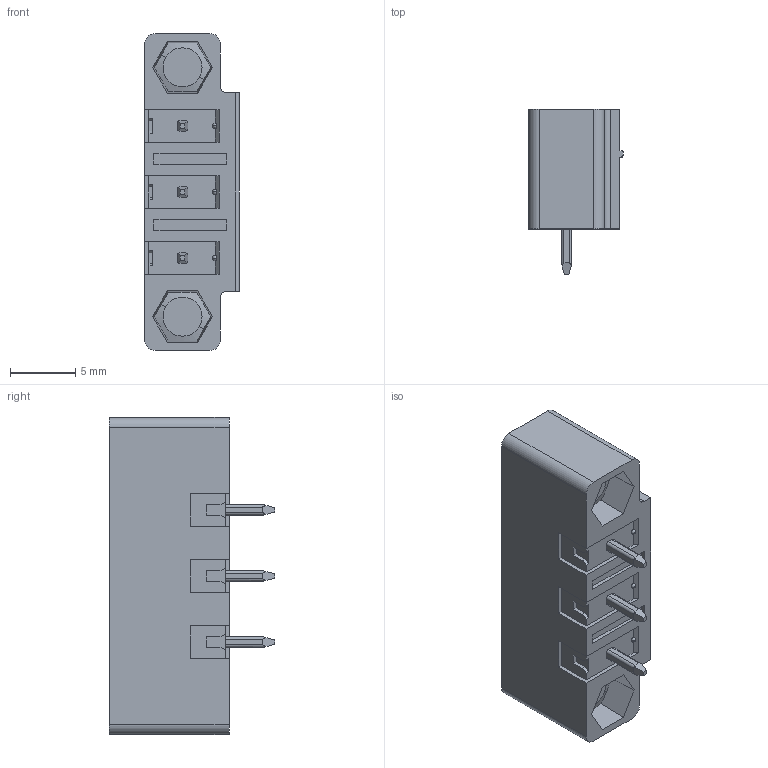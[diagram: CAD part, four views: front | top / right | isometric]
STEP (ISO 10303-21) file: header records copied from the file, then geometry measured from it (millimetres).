
FILE_DESCRIPTION((''),'2;1');
FILE_NAME('3PIN_SW0001','2019-05-14T',('zhenbing.lai'),(''),'CREO PARAMETRIC BY PTC INC, 2016260','CREO PARAMETRIC BY PTC INC, 2016260','');
FILE_SCHEMA(('CONFIG_CONTROL_DESIGN'));
Length unit declared in the file: millimetre
Products named in the file (1): 3PIN_SW0001
Bounding box: 7.25 x 12.7 x 24.36 mm (x, y, z)
Volume: 1025.8 mm3; surface area: 1681.3 mm2
Topology: 1 solids, 3 shells, 358 faces, 959 edges, 614 vertices
Faces by surface type: plane 244, cylinder 77, cone 19, bspline 12, sphere 6
Entity records: 18761 total; most frequent: CARTESIAN_POINT 10145, ORIENTED_EDGE 1898, DIRECTION 1567, EDGE_CURVE 949, VECTOR 679, LINE 679, VERTEX_POINT 614, AXIS2_PLACEMENT_3D 444
